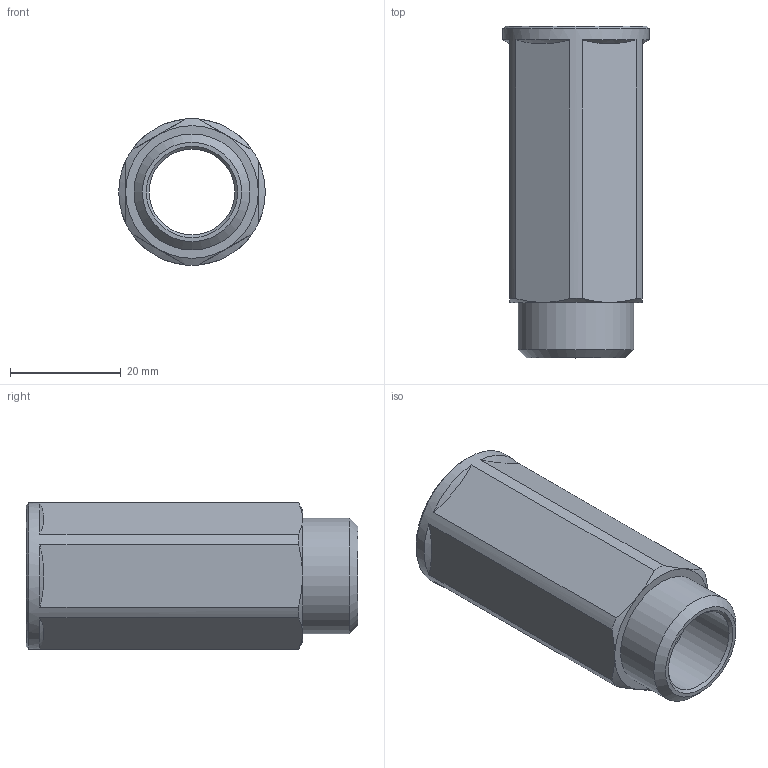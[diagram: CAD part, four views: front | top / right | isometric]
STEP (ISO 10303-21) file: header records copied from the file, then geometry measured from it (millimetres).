
FILE_DESCRIPTION(('STEP AP203'), '1');
FILE_NAME('ÂÐ.753128.020 - VTr.197.N.0450 Ôèò. ðåçüá. óäë', '2024-06-27T06:01:36', ('Boss'), (''), 'C3D Converter', 'C3D Toolkit', '');
FILE_SCHEMA(('CONFIG_CONTROL_DESIGN'));
Length unit declared in the file: millimetre
Products named in the file (1): ВР.753128.020
Bounding box: 26.5 x 60 x 26.5 mm (x, y, z)
Volume: 11370.8 mm3; surface area: 8949.4 mm2
Topology: 1 solids, 1 shells, 33 faces, 73 edges, 45 vertices
Faces by surface type: cone 16, plane 11, cylinder 5, torus 1
Full cylindrical faces by diameter (mm): 15.5 x1, 18.632 x1, 20.955 x1, 21.5 x1, 26.5 x1
Entity records: 1379 total; most frequent: CARTESIAN_POINT 658, DIRECTION 146, ORIENTED_EDGE 126, AXIS2_PLACEMENT_3D 67, EDGE_CURVE 63, EDGE_LOOP 48, VERTEX_POINT 47, ADVANCED_FACE 33
